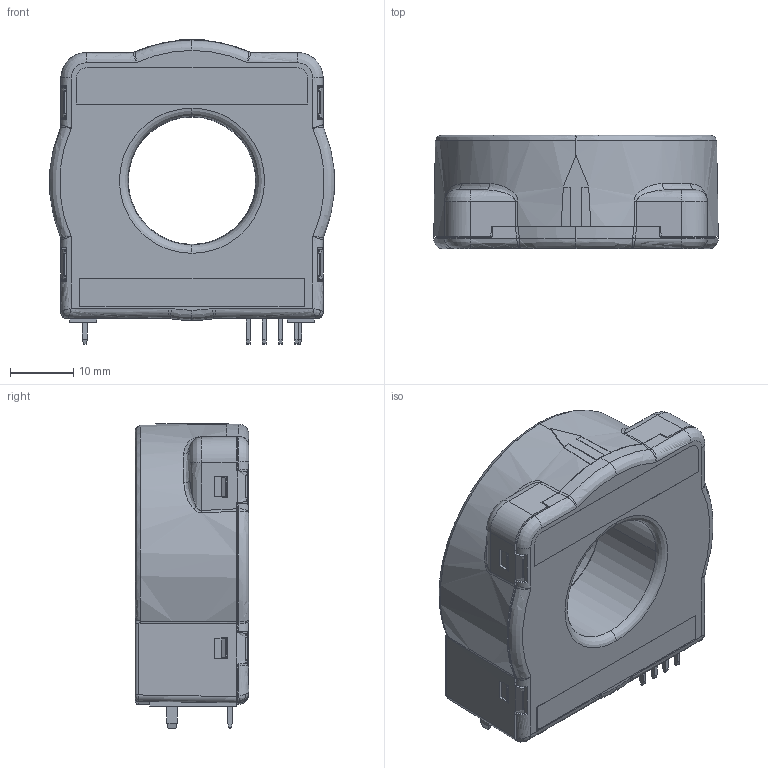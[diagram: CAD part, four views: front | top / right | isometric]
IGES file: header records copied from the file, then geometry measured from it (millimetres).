
Start section: Elysium IGES Interface
Global section: file name: 94HC:\Documents and Settings\tah\デスクトップ\CTSR 0.3-P_SP3 blackbox\CTSR 0.3-P_SP3 blackbox.igs; native system: CoCreate Modeling 17.00A  17-Jun-2010; preprocessor: CoCreate IGES_3D V2.2; author: Unknown; organization: Unknown; date: 20130515.131715; units: millimetre
Bounding box: 44.87 x 17.9 x 48.06 mm (x, y, z)
Volume: 24939.8 mm3; surface area: 7226.8 mm2
Topology: 1 solids, 1 shells, 484 faces, 1316 edges, 841 vertices
Faces by surface type: bspline 484
